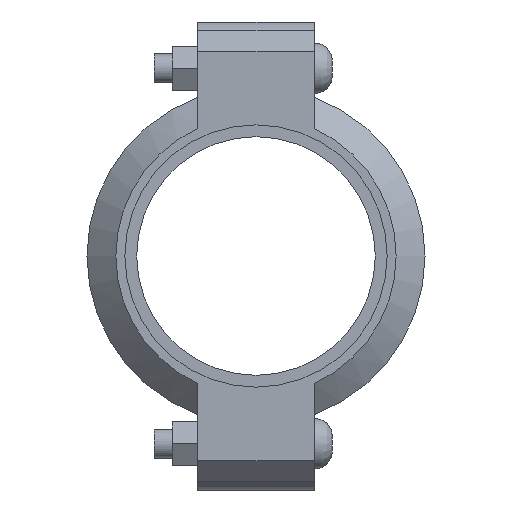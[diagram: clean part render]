
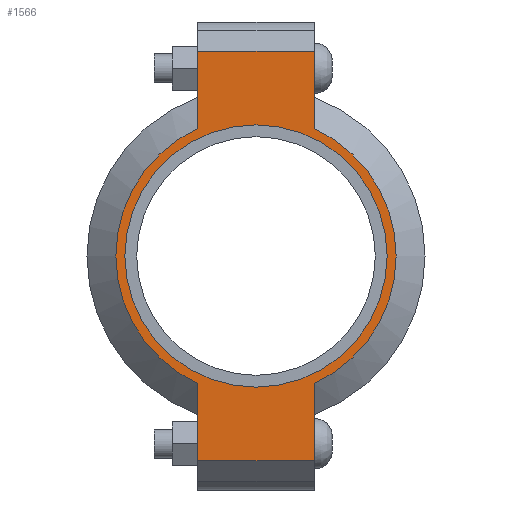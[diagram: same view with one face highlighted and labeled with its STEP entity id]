
A CAD part, left-side view. The second image highlights one B-rep face of the part: STEP entity #1566.
In plain terms, the highlighted planar face has unit normal (-1, 0, 0) as drawn and (0, 0, 1) by its records, which use the part's own axes.
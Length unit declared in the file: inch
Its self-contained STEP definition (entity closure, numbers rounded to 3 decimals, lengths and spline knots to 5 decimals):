
#190=LINE('',#2742,#283);
#198=LINE('',#2778,#291);
#205=LINE('',#2799,#298);
#214=LINE('',#2831,#307);
#215=LINE('',#2835,#308);
#216=LINE('',#2837,#309);
#283=VECTOR('',#2234,0.3937);
#291=VECTOR('',#2250,0.3937);
#298=VECTOR('',#2269,0.3937);
#307=VECTOR('',#2294,0.3937);
#308=VECTOR('',#2299,0.3937);
#309=VECTOR('',#2300,0.3937);
#365=FACE_BOUND('',#543,.T.);
#437=FACE_OUTER_BOUND('',#542,.T.);
#542=EDGE_LOOP('',(#1307,#1308,#1309,#1310,#1311,#1312,#1313,#1314));
#543=EDGE_LOOP('',(#1315));
#615=CIRCLE('',#1794,2.25);
#641=CIRCLE('',#1853,2.405);
#642=CIRCLE('',#1854,2.405);
#707=VERTEX_POINT('',#2558);
#750=VERTEX_POINT('',#2739);
#751=VERTEX_POINT('',#2741);
#762=VERTEX_POINT('',#2773);
#763=VERTEX_POINT('',#2777);
#770=VERTEX_POINT('',#2796);
#771=VERTEX_POINT('',#2798);
#781=VERTEX_POINT('',#2834);
#782=VERTEX_POINT('',#2836);
#863=EDGE_CURVE('',#707,#707,#615,.T.);
#924=EDGE_CURVE('',#751,#750,#190,.T.);
#938=EDGE_CURVE('',#763,#762,#198,.T.);
#948=EDGE_CURVE('',#771,#770,#205,.T.);
#963=EDGE_CURVE('',#763,#750,#214,.T.);
#964=EDGE_CURVE('',#762,#771,#641,.T.);
#965=EDGE_CURVE('',#781,#770,#215,.T.);
#966=EDGE_CURVE('',#781,#782,#216,.T.);
#967=EDGE_CURVE('',#782,#751,#642,.T.);
#1307=ORIENTED_EDGE('',*,*,#963,.F.);
#1308=ORIENTED_EDGE('',*,*,#938,.T.);
#1309=ORIENTED_EDGE('',*,*,#964,.T.);
#1310=ORIENTED_EDGE('',*,*,#948,.T.);
#1311=ORIENTED_EDGE('',*,*,#965,.F.);
#1312=ORIENTED_EDGE('',*,*,#966,.T.);
#1313=ORIENTED_EDGE('',*,*,#967,.T.);
#1314=ORIENTED_EDGE('',*,*,#924,.T.);
#1315=ORIENTED_EDGE('',*,*,#863,.T.);
#1408=PLANE('',#1852);
#1566=ADVANCED_FACE('',(#437,#365),#1408,.T.);
#1794=AXIS2_PLACEMENT_3D('',#2560,#2110,#2111);
#1852=AXIS2_PLACEMENT_3D('',#2832,#2295,#2296);
#1853=AXIS2_PLACEMENT_3D('',#2833,#2297,#2298);
#1854=AXIS2_PLACEMENT_3D('',#2838,#2301,#2302);
#2110=DIRECTION('center_axis',(0.,0.,-1.));
#2111=DIRECTION('ref_axis',(1.,0.,0.));
#2234=DIRECTION('',(1.,0.,0.));
#2250=DIRECTION('',(-1.,0.,0.));
#2269=DIRECTION('',(-1.,0.,0.));
#2294=DIRECTION('',(0.,-1.,0.));
#2295=DIRECTION('center_axis',(0.,0.,1.));
#2296=DIRECTION('ref_axis',(-1.,0.,0.));
#2297=DIRECTION('center_axis',(0.,0.,1.));
#2298=DIRECTION('ref_axis',(1.,0.,0.));
#2299=DIRECTION('',(0.,1.,0.));
#2300=DIRECTION('',(1.,0.,0.));
#2301=DIRECTION('center_axis',(0.,0.,1.));
#2302=DIRECTION('ref_axis',(1.,0.,0.));
#2558=CARTESIAN_POINT('',(-2.25,0.,1.065));
#2560=CARTESIAN_POINT('Origin',(0.,0.,1.065));
#2739=CARTESIAN_POINT('',(3.515,-1.,1.065));
#2741=CARTESIAN_POINT('',(2.18724,-1.,1.065));
#2742=CARTESIAN_POINT('',(4.015,-1.,1.065));
#2773=CARTESIAN_POINT('',(2.18724,1.,1.065));
#2777=CARTESIAN_POINT('',(3.515,1.,1.065));
#2778=CARTESIAN_POINT('',(-4.015,1.,1.065));
#2796=CARTESIAN_POINT('',(-3.515,1.,1.065));
#2798=CARTESIAN_POINT('',(-2.18724,1.,1.065));
#2799=CARTESIAN_POINT('',(-4.015,1.,1.065));
#2831=CARTESIAN_POINT('',(3.515,-0.5,1.065));
#2832=CARTESIAN_POINT('Origin',(0.,0.,
1.065));
#2833=CARTESIAN_POINT('Origin',(0.,0.,1.065));
#2834=CARTESIAN_POINT('',(-3.515,-1.,1.065));
#2835=CARTESIAN_POINT('',(-3.515,0.5,1.065));
#2836=CARTESIAN_POINT('',(-2.18724,-1.,1.065));
#2837=CARTESIAN_POINT('',(4.015,-1.,1.065));
#2838=CARTESIAN_POINT('Origin',(0.,0.,1.065));
